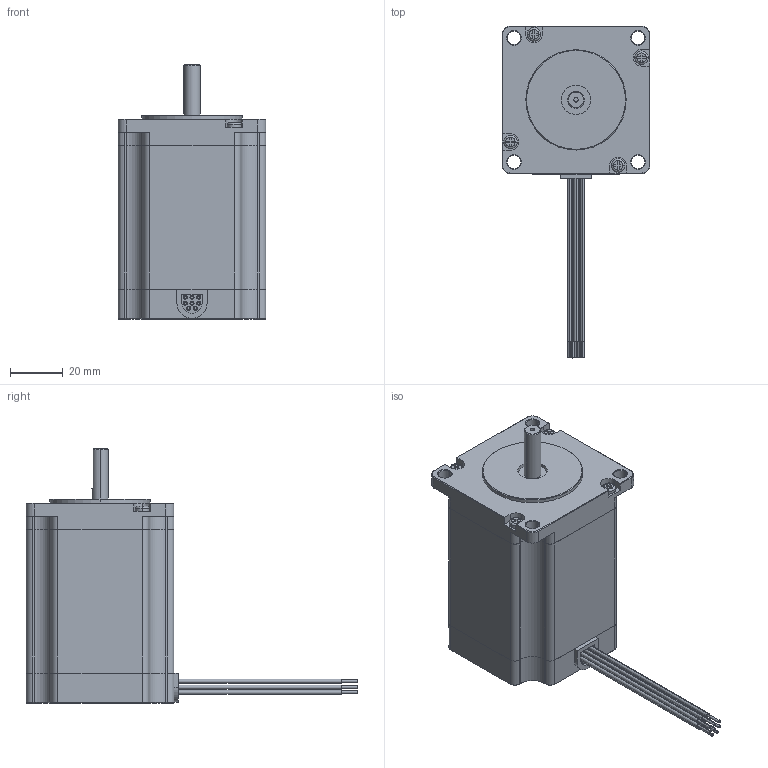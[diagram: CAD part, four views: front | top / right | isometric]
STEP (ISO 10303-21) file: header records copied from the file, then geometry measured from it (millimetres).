
FILE_DESCRIPTION (( 'STEP AP214' ), '1' );
FILE_NAME ('23Y202S-LW8.STEP', '2010-06-11T15:24:44', ( 'Tim Raines' ), ( 'Anaheim Automation' ), 'SwSTEP 2.0', 'SolidWorks 2010', '' );
FILE_SCHEMA (( 'AUTOMOTIVE_DESIGN' ));
Length unit declared in the file: inch
Products named in the file (1): 23Y202S-LW8
Bounding box: 56.13 x 125.98 x 96.57 mm (x, y, z)
Volume: 217120.9 mm3; surface area: 26027.8 mm2
Topology: 1 solids, 1 shells, 336 faces, 830 edges, 526 vertices
Faces by surface type: plane 164, cylinder 117, cone 47, torus 8
Entity records: 14282 total; most frequent: DIRECTION 1785, CARTESIAN_POINT 1691, ORIENTED_EDGE 1644, EDGE_CURVE 822, AXIS2_PLACEMENT_3D 628, LINE 529, VECTOR 529, VERTEX_POINT 526
